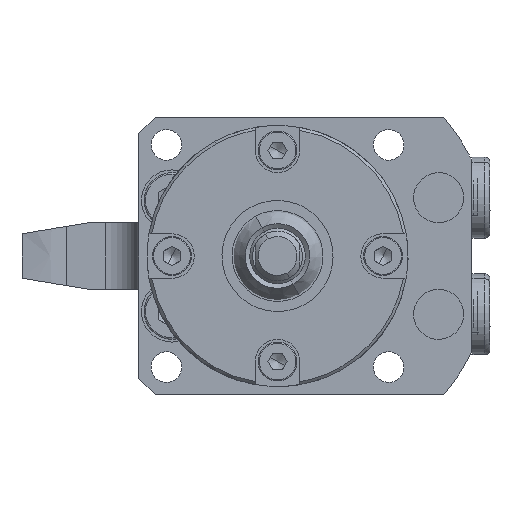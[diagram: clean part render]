
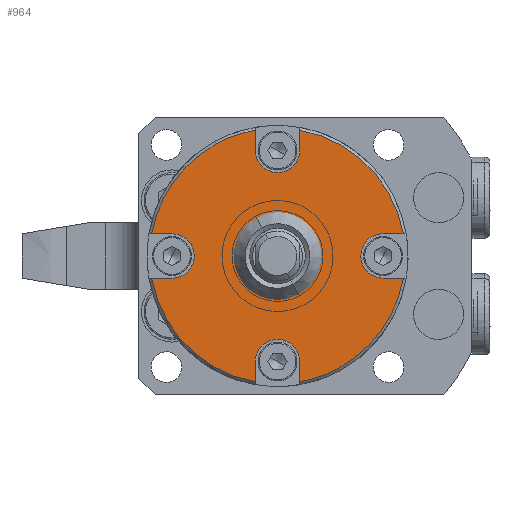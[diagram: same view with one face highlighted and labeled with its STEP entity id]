
A CAD part, front view. The second image highlights one B-rep face of the part: STEP entity #964.
In plain terms, the highlighted planar face has unit normal (0, -1, 0).
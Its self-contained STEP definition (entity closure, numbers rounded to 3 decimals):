
#402=CARTESIAN_POINT('Vertex',(-22.65,-59.,4.)) ;
#407=CARTESIAN_POINT('Axis2P3D Location',(0.,-59.,0.)) ;
#411=CARTESIAN_POINT('Vertex',(-11.027,-59.,20.184)) ;
#470=CARTESIAN_POINT('Vertex',(2.397,-59.,-4.388)) ;
#477=CARTESIAN_POINT('Vertex',(-2.397,-59.,4.388)) ;
#480=CARTESIAN_POINT('Axis2P3D Location',(0.,-59.,0.)) ;
#492=CARTESIAN_POINT('Axis2P3D Location',(0.,-59.,0.)) ;
#522=CARTESIAN_POINT('Vertex',(-19.,-59.,4.)) ;
#525=CARTESIAN_POINT('Line Origine',(-20.825,-59.,4.)) ;
#552=CARTESIAN_POINT('Vertex',(-19.,-59.,-4.)) ;
#578=CARTESIAN_POINT('Vertex',(-22.65,-59.,-4.)) ;
#581=CARTESIAN_POINT('Line Origine',(-20.825,-59.,-4.)) ;
#603=CARTESIAN_POINT('Vertex',(-15.49,-59.,-1.918)) ;
#613=CARTESIAN_POINT('Axis2P3D Location',(-19.,-59.,0.)) ;
#625=CARTESIAN_POINT('Axis2P3D Location',(-19.,-59.,0.)) ;
#673=CARTESIAN_POINT('Vertex',(-4.,-59.,19.)) ;
#678=CARTESIAN_POINT('Axis2P3D Location',(0.,-59.,19.)) ;
#682=CARTESIAN_POINT('Vertex',(-1.918,-59.,15.49)) ;
#708=CARTESIAN_POINT('Vertex',(4.,-59.,19.)) ;
#718=CARTESIAN_POINT('Axis2P3D Location',(0.,-59.,19.)) ;
#739=CARTESIAN_POINT('Vertex',(19.,-59.,4.)) ;
#744=CARTESIAN_POINT('Axis2P3D Location',(19.,-59.,0.)) ;
#748=CARTESIAN_POINT('Vertex',(15.49,-59.,1.918)) ;
#774=CARTESIAN_POINT('Vertex',(19.,-59.,-4.)) ;
#784=CARTESIAN_POINT('Axis2P3D Location',(19.,-59.,0.)) ;
#805=CARTESIAN_POINT('Vertex',(4.,-59.,-19.)) ;
#810=CARTESIAN_POINT('Axis2P3D Location',(0.,-59.,-19.)) ;
#814=CARTESIAN_POINT('Vertex',(1.918,-59.,-15.49)) ;
#840=CARTESIAN_POINT('Vertex',(-4.,-59.,-19.)) ;
#850=CARTESIAN_POINT('Axis2P3D Location',(0.,-59.,-19.)) ;
#862=CARTESIAN_POINT('Axis2P3D Location',(0.,-59.,23.5)) ;
#867=CARTESIAN_POINT('Axis2P3D Location',(0.,-59.,0.)) ;
#871=CARTESIAN_POINT('Vertex',(-4.,-59.,22.65)) ;
#874=CARTESIAN_POINT('Axis2P3D Location',(0.,-59.,0.)) ;
#878=CARTESIAN_POINT('Vertex',(-4.,-59.,-22.65)) ;
#881=CARTESIAN_POINT('Line Origine',(-4.,-59.,-20.825)) ;
#886=CARTESIAN_POINT('Line Origine',(4.,-59.,-20.825)) ;
#890=CARTESIAN_POINT('Vertex',(4.,-59.,-22.65)) ;
#893=CARTESIAN_POINT('Axis2P3D Location',(0.,-59.,0.)) ;
#897=CARTESIAN_POINT('Vertex',(11.027,-59.,-20.184)) ;
#900=CARTESIAN_POINT('Axis2P3D Location',(0.,-59.,0.)) ;
#904=CARTESIAN_POINT('Vertex',(22.65,-59.,-4.)) ;
#907=CARTESIAN_POINT('Line Origine',(20.825,-59.,-4.)) ;
#912=CARTESIAN_POINT('Line Origine',(20.825,-59.,4.)) ;
#916=CARTESIAN_POINT('Vertex',(22.65,-59.,4.)) ;
#919=CARTESIAN_POINT('Axis2P3D Location',(0.,-59.,0.)) ;
#923=CARTESIAN_POINT('Vertex',(4.,-59.,22.65)) ;
#926=CARTESIAN_POINT('Line Origine',(4.,-59.,20.825)) ;
#931=CARTESIAN_POINT('Line Origine',(-4.,-59.,20.825)) ;
#408=DIRECTION('Axis2P3D Direction',(0.,-1.,0.)) ;
#481=DIRECTION('Axis2P3D Direction',(0.,-1.,0.)) ;
#493=DIRECTION('Axis2P3D Direction',(0.,-1.,0.)) ;
#526=DIRECTION('Vector Direction',(1.,0.,0.)) ;
#582=DIRECTION('Vector Direction',(1.,0.,0.)) ;
#614=DIRECTION('Axis2P3D Direction',(0.,-1.,-0.)) ;
#626=DIRECTION('Axis2P3D Direction',(0.,-1.,-0.)) ;
#679=DIRECTION('Axis2P3D Direction',(0.,1.,0.)) ;
#719=DIRECTION('Axis2P3D Direction',(0.,1.,0.)) ;
#745=DIRECTION('Axis2P3D Direction',(0.,1.,0.)) ;
#785=DIRECTION('Axis2P3D Direction',(0.,1.,0.)) ;
#811=DIRECTION('Axis2P3D Direction',(0.,1.,-0.)) ;
#851=DIRECTION('Axis2P3D Direction',(0.,1.,-0.)) ;
#863=DIRECTION('Axis2P3D Direction',(0.,-1.,0.)) ;
#864=DIRECTION('Axis2P3D XDirection',(1.,0.,0.)) ;
#868=DIRECTION('Axis2P3D Direction',(0.,-1.,0.)) ;
#875=DIRECTION('Axis2P3D Direction',(0.,-1.,0.)) ;
#882=DIRECTION('Vector Direction',(0.,0.,-1.)) ;
#887=DIRECTION('Vector Direction',(0.,0.,-1.)) ;
#894=DIRECTION('Axis2P3D Direction',(0.,-1.,0.)) ;
#901=DIRECTION('Axis2P3D Direction',(0.,-1.,0.)) ;
#908=DIRECTION('Vector Direction',(1.,0.,0.)) ;
#913=DIRECTION('Vector Direction',(1.,0.,0.)) ;
#920=DIRECTION('Axis2P3D Direction',(0.,-1.,0.)) ;
#927=DIRECTION('Vector Direction',(0.,0.,1.)) ;
#932=DIRECTION('Vector Direction',(0.,0.,1.)) ;
#409=AXIS2_PLACEMENT_3D('Circle Axis2P3D',#407,#408,$) ;
#482=AXIS2_PLACEMENT_3D('Circle Axis2P3D',#480,#481,$) ;
#494=AXIS2_PLACEMENT_3D('Circle Axis2P3D',#492,#493,$) ;
#615=AXIS2_PLACEMENT_3D('Circle Axis2P3D',#613,#614,$) ;
#627=AXIS2_PLACEMENT_3D('Circle Axis2P3D',#625,#626,$) ;
#680=AXIS2_PLACEMENT_3D('Circle Axis2P3D',#678,#679,$) ;
#720=AXIS2_PLACEMENT_3D('Circle Axis2P3D',#718,#719,$) ;
#746=AXIS2_PLACEMENT_3D('Circle Axis2P3D',#744,#745,$) ;
#786=AXIS2_PLACEMENT_3D('Circle Axis2P3D',#784,#785,$) ;
#812=AXIS2_PLACEMENT_3D('Circle Axis2P3D',#810,#811,$) ;
#852=AXIS2_PLACEMENT_3D('Circle Axis2P3D',#850,#851,$) ;
#865=AXIS2_PLACEMENT_3D('Plane Axis2P3D',#862,#863,#864) ;
#869=AXIS2_PLACEMENT_3D('Circle Axis2P3D',#867,#868,$) ;
#876=AXIS2_PLACEMENT_3D('Circle Axis2P3D',#874,#875,$) ;
#895=AXIS2_PLACEMENT_3D('Circle Axis2P3D',#893,#894,$) ;
#902=AXIS2_PLACEMENT_3D('Circle Axis2P3D',#900,#901,$) ;
#921=AXIS2_PLACEMENT_3D('Circle Axis2P3D',#919,#920,$) ;
#937=ORIENTED_EDGE('',*,*,#873,.T.) ;
#938=ORIENTED_EDGE('',*,*,#413,.T.) ;
#939=ORIENTED_EDGE('',*,*,#529,.T.) ;
#940=ORIENTED_EDGE('',*,*,#629,.T.) ;
#941=ORIENTED_EDGE('',*,*,#617,.T.) ;
#942=ORIENTED_EDGE('',*,*,#585,.F.) ;
#943=ORIENTED_EDGE('',*,*,#880,.T.) ;
#944=ORIENTED_EDGE('',*,*,#885,.F.) ;
#945=ORIENTED_EDGE('',*,*,#854,.T.) ;
#946=ORIENTED_EDGE('',*,*,#816,.T.) ;
#947=ORIENTED_EDGE('',*,*,#892,.T.) ;
#948=ORIENTED_EDGE('',*,*,#899,.T.) ;
#949=ORIENTED_EDGE('',*,*,#906,.T.) ;
#950=ORIENTED_EDGE('',*,*,#911,.F.) ;
#951=ORIENTED_EDGE('',*,*,#788,.T.) ;
#952=ORIENTED_EDGE('',*,*,#750,.T.) ;
#953=ORIENTED_EDGE('',*,*,#918,.T.) ;
#954=ORIENTED_EDGE('',*,*,#925,.T.) ;
#955=ORIENTED_EDGE('',*,*,#930,.F.) ;
#956=ORIENTED_EDGE('',*,*,#722,.T.) ;
#957=ORIENTED_EDGE('',*,*,#684,.T.) ;
#958=ORIENTED_EDGE('',*,*,#935,.T.) ;
#961=ORIENTED_EDGE('',*,*,#484,.F.) ;
#962=ORIENTED_EDGE('',*,*,#496,.F.) ;
#963=FACE_BOUND('',#960,.T.) ;
#527=VECTOR('Line Direction',#526,1.) ;
#583=VECTOR('Line Direction',#582,1.) ;
#883=VECTOR('Line Direction',#882,1.) ;
#888=VECTOR('Line Direction',#887,1.) ;
#909=VECTOR('Line Direction',#908,1.) ;
#914=VECTOR('Line Direction',#913,1.) ;
#928=VECTOR('Line Direction',#927,1.) ;
#933=VECTOR('Line Direction',#932,1.) ;
#964=ADVANCED_FACE('BODY',(#959,#963),#866,.T.) ;
#410=CIRCLE('generated circle',#409,23.) ;
#483=CIRCLE('generated circle',#482,5.) ;
#495=CIRCLE('generated circle',#494,5.) ;
#616=CIRCLE('generated circle',#615,4.) ;
#628=CIRCLE('generated circle',#627,4.) ;
#681=CIRCLE('generated circle',#680,4.) ;
#721=CIRCLE('generated circle',#720,4.) ;
#747=CIRCLE('generated circle',#746,4.) ;
#787=CIRCLE('generated circle',#786,4.) ;
#813=CIRCLE('generated circle',#812,4.) ;
#853=CIRCLE('generated circle',#852,4.) ;
#870=CIRCLE('generated circle',#869,23.) ;
#877=CIRCLE('generated circle',#876,23.) ;
#896=CIRCLE('generated circle',#895,23.) ;
#903=CIRCLE('generated circle',#902,23.) ;
#922=CIRCLE('generated circle',#921,23.) ;
#413=EDGE_CURVE('',#412,#403,#410,.T.) ;
#484=EDGE_CURVE('',#478,#471,#483,.T.) ;
#496=EDGE_CURVE('',#471,#478,#495,.T.) ;
#529=EDGE_CURVE('',#403,#523,#528,.T.) ;
#585=EDGE_CURVE('',#579,#553,#584,.T.) ;
#617=EDGE_CURVE('',#604,#553,#616,.F.) ;
#629=EDGE_CURVE('',#523,#604,#628,.F.) ;
#684=EDGE_CURVE('',#683,#674,#681,.T.) ;
#722=EDGE_CURVE('',#709,#683,#721,.T.) ;
#750=EDGE_CURVE('',#749,#740,#747,.T.) ;
#788=EDGE_CURVE('',#775,#749,#787,.T.) ;
#816=EDGE_CURVE('',#815,#806,#813,.T.) ;
#854=EDGE_CURVE('',#841,#815,#853,.T.) ;
#873=EDGE_CURVE('',#872,#412,#870,.T.) ;
#880=EDGE_CURVE('',#579,#879,#877,.T.) ;
#885=EDGE_CURVE('',#841,#879,#884,.T.) ;
#892=EDGE_CURVE('',#806,#891,#889,.T.) ;
#899=EDGE_CURVE('',#891,#898,#896,.T.) ;
#906=EDGE_CURVE('',#898,#905,#903,.T.) ;
#911=EDGE_CURVE('',#775,#905,#910,.T.) ;
#918=EDGE_CURVE('',#740,#917,#915,.T.) ;
#925=EDGE_CURVE('',#917,#924,#922,.T.) ;
#930=EDGE_CURVE('',#709,#924,#929,.T.) ;
#935=EDGE_CURVE('',#674,#872,#934,.T.) ;
#936=EDGE_LOOP('',(#937,#938,#939,#940,#941,#942,#943,#944,#945,#946,#947,#948,#949,#950,#951,#952,#953,#954,#955,#956,#957,#958)) ;
#960=EDGE_LOOP('',(#961,#962)) ;
#959=FACE_OUTER_BOUND('',#936,.T.) ;
#528=LINE('Line',#525,#527) ;
#584=LINE('Line',#581,#583) ;
#884=LINE('Line',#881,#883) ;
#889=LINE('Line',#886,#888) ;
#910=LINE('Line',#907,#909) ;
#915=LINE('Line',#912,#914) ;
#929=LINE('Line',#926,#928) ;
#934=LINE('Line',#931,#933) ;
#866=PLANE('Plane',#865) ;
#403=VERTEX_POINT('',#402) ;
#412=VERTEX_POINT('',#411) ;
#471=VERTEX_POINT('',#470) ;
#478=VERTEX_POINT('',#477) ;
#523=VERTEX_POINT('',#522) ;
#553=VERTEX_POINT('',#552) ;
#579=VERTEX_POINT('',#578) ;
#604=VERTEX_POINT('',#603) ;
#674=VERTEX_POINT('',#673) ;
#683=VERTEX_POINT('',#682) ;
#709=VERTEX_POINT('',#708) ;
#740=VERTEX_POINT('',#739) ;
#749=VERTEX_POINT('',#748) ;
#775=VERTEX_POINT('',#774) ;
#806=VERTEX_POINT('',#805) ;
#815=VERTEX_POINT('',#814) ;
#841=VERTEX_POINT('',#840) ;
#872=VERTEX_POINT('',#871) ;
#879=VERTEX_POINT('',#878) ;
#891=VERTEX_POINT('',#890) ;
#898=VERTEX_POINT('',#897) ;
#905=VERTEX_POINT('',#904) ;
#917=VERTEX_POINT('',#916) ;
#924=VERTEX_POINT('',#923) ;
